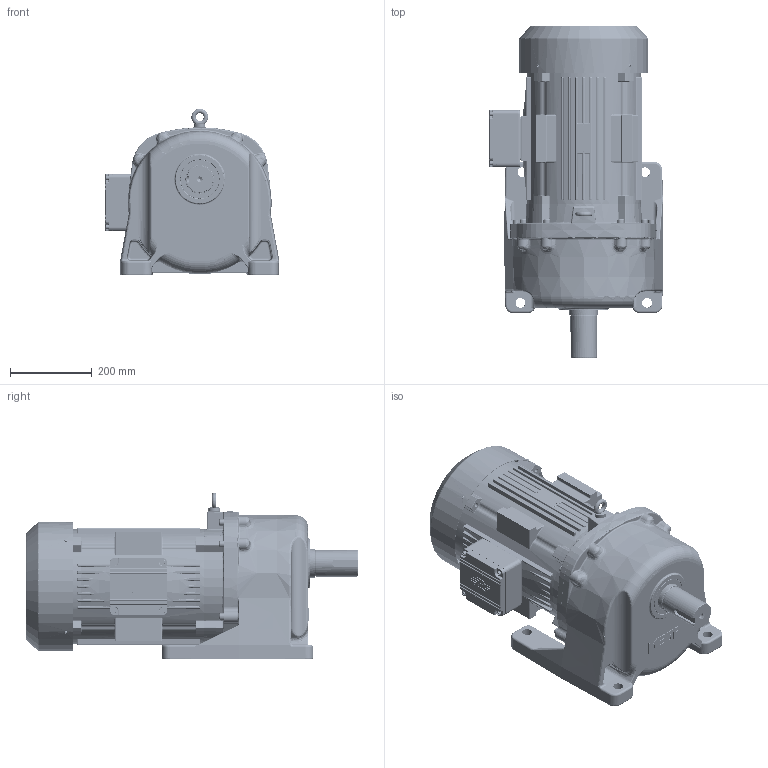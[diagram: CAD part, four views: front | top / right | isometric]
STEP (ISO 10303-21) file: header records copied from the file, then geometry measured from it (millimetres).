
FILE_DESCRIPTION(/* description */ (''),/* implementation_level */ '2;1');
FILE_NAME(/* name */ 'Z:\동력 3D 파일\PML235_15kW_3D.stp',/* time_stamp */ '2021-11-30T17:27:40+09:00',/* author */ ('jaebok'),/* organization */ (''),/* preprocessor_version */ 'ST-DEVELOPER v18.1',/* originating_system */ 'Autodesk Inventor 2022',/* authorisation */ '');
FILE_SCHEMA (('AUTOMOTIVE_DESIGN { 1 0 10303 214 3 1 1 }'));
Length unit declared in the file: millimetre
Products named in the file (1): 부품33
Bounding box: 427.9 x 812.2 x 407.48 mm (x, y, z)
Volume: 16612709.2 mm3; surface area: 2747200.8 mm2
Topology: 4 solids, 30 shells, 6500 faces, 16426 edges, 9845 vertices
Faces by surface type: cylinder 1844, plane 1821, bspline 1682, torus 639, sphere 298, cone 216
Full cylindrical faces by diameter (mm): 3.242 x4, 4.134 x4, 4.917 x9, 5 x16, 6 x4, 6.5 x8, 6.647 x17, 7 x4, 8 x4, 8.376 x1, 9.5 x4, 10 x17, 12 x9, 13 x8, 13.2 x1, 13.835 x2, 15 x1, 16 x8, 20 x1, 24 x4, 28 x1, 34 x1, 37 x1, 40 x1, 50 x1, 55 x1, 65 x1, 68 x2, 70 x5, 72 x1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
Entity records: 243407 total; most frequent: CARTESIAN_POINT 89695, ORIENTED_EDGE 32206, DIRECTION 28465, EDGE_CURVE 16103, AXIS2_PLACEMENT_3D 10870, VERTEX_POINT 9860, EDGE_LOOP 7043, LINE 6725
